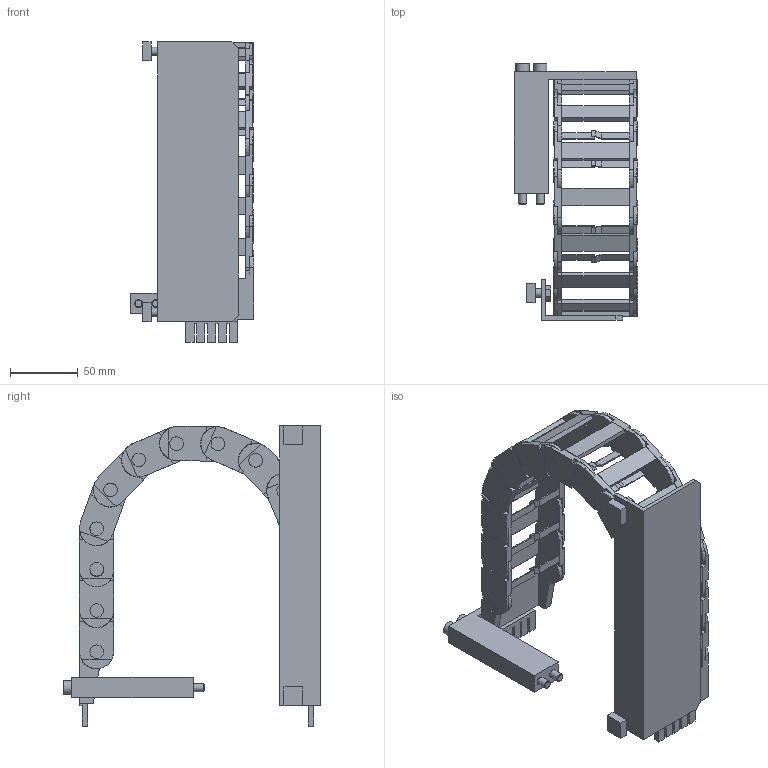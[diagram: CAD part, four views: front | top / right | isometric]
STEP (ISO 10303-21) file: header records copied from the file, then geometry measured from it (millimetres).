
FILE_DESCRIPTION( ( 'STEP AP214' ), '1' );
FILE_NAME( 'U:/Marketing/AvmDoc/LINMOT/CD_2010_06/3D STEP/Accessoires/8319330.step', '2010-06-10T09:14:20', ( ' ' ), ( ' ' ), 'XStep 1.0', ' ', ' ' );
FILE_SCHEMA( ( 'automotive_design' ) );
Length unit declared in the file: millimetre
Products named in the file (15): 1; 2; 3; 4; 5; 6; 7; 8; 9; 10; 11; 12; 13; 14; 15
Bounding box: 91 x 190 x 222 mm (x, y, z)
Volume: 269264.4 mm3; surface area: 178844 mm2
Topology: 15 solids, 17 shells, 1180 faces, 3308 edges, 2204 vertices
Faces by surface type: plane 901, cylinder 277, cone 2
Full cylindrical faces by diameter (mm): 6 x6, 6.2 x2, 6.5 x2, 10 x4
Entity records: 47549 total; most frequent: CARTESIAN_POINT 6673, ORIENTED_EDGE 6566, DIRECTION 6441, EDGE_CURVE 3283, LINE 2515, VECTOR 2515, VERTEX_POINT 2195, AXIS2_PLACEMENT_3D 1963
